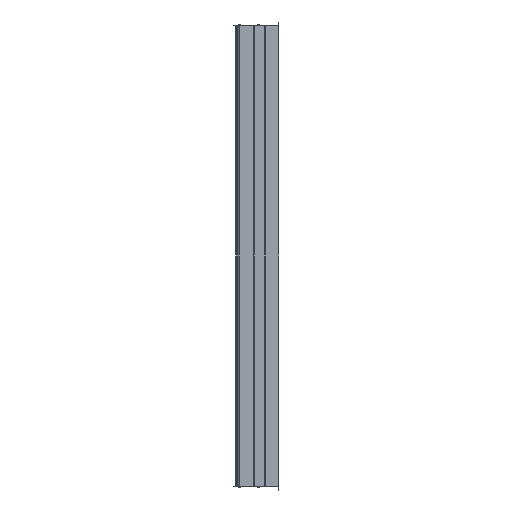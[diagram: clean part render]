
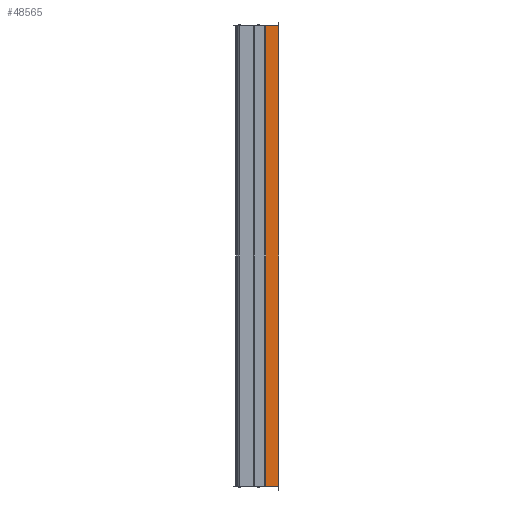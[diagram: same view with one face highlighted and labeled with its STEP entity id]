
A CAD part, left-side view. The second image highlights one B-rep face of the part: STEP entity #48565.
In plain terms, the highlighted planar face has unit normal (-1, 0, 0).
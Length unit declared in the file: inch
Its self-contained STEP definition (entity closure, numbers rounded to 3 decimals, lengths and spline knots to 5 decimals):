
#2175 = ORIENTED_EDGE ( 'NONE', *, *, #64829, .T. ) ;
#2641 = VECTOR ( 'NONE', #31469, 39.37008 ) ;
#10117 = CARTESIAN_POINT ( 'NONE',  ( -1.25984, -3.67323, -48.0625 ) ) ;
#12880 = DIRECTION ( 'NONE',  ( 0., 0., 1. ) ) ;
#14794 = CARTESIAN_POINT ( 'NONE',  ( -1.25984, -3.67323, 0. ) ) ;
#15551 = LINE ( 'NONE', #16559, #63733 ) ;
#16287 = VECTOR ( 'NONE', #62517, 39.37008 ) ;
#16559 = CARTESIAN_POINT ( 'NONE',  ( -1.25984, -3.67323, 0. ) ) ;
#16716 = AXIS2_PLACEMENT_3D ( 'NONE', #35137, #50857, #12880 ) ;
#20855 = CARTESIAN_POINT ( 'NONE',  ( -1.25984, -3.67323, -48.0625 ) ) ;
#21151 = VECTOR ( 'NONE', #25242, 39.37008 ) ;
#21817 = ORIENTED_EDGE ( 'NONE', *, *, #25784, .F. ) ;
#23038 = VERTEX_POINT ( 'NONE', #43039 ) ;
#23299 = VERTEX_POINT ( 'NONE', #61829 ) ;
#25242 = DIRECTION ( 'NONE',  ( 0., 0., 1. ) ) ;
#25784 = EDGE_CURVE ( 'NONE', #23038, #43275, #15551, .T. ) ;
#27962 = EDGE_CURVE ( 'NONE', #64656, #23038, #41658, .T. ) ;
#30962 = DIRECTION ( 'NONE',  ( 0., -1., 0. ) ) ;
#31469 = DIRECTION ( 'NONE',  ( 0., -1., 0. ) ) ;
#35137 = CARTESIAN_POINT ( 'NONE',  ( -1.25984, -3.67323, -48.0625 ) ) ;
#36932 = EDGE_LOOP ( 'NONE', ( #21817, #59230, #2175, #38497 ) ) ;
#38497 = ORIENTED_EDGE ( 'NONE', *, *, #59871, .T. ) ;
#40614 = PLANE ( 'NONE',  #16716 ) ;
#41272 = LINE ( 'NONE', #10117, #21151 ) ;
#41658 = LINE ( 'NONE', #62863, #16287 ) ;
#43039 = CARTESIAN_POINT ( 'NONE',  ( -1.25984, -2.38583, 0. ) ) ;
#43275 = VERTEX_POINT ( 'NONE', #14794 ) ;
#47192 = LINE ( 'NONE', #20855, #2641 ) ;
#48565 = ADVANCED_FACE ( 'NONE', ( #55343 ), #40614, .T. ) ;
#50857 = DIRECTION ( 'NONE',  ( -1., 0., 0. ) ) ;
#55343 = FACE_OUTER_BOUND ( 'NONE', #36932, .T. ) ;
#59230 = ORIENTED_EDGE ( 'NONE', *, *, #27962, .F. ) ;
#59871 = EDGE_CURVE ( 'NONE', #23299, #43275, #41272, .T. ) ;
#61829 = CARTESIAN_POINT ( 'NONE',  ( -1.25984, -3.67323, -48.0625 ) ) ;
#62517 = DIRECTION ( 'NONE',  ( 0., 0., 1. ) ) ;
#62863 = CARTESIAN_POINT ( 'NONE',  ( -1.25984, -2.38583, -48.0625 ) ) ;
#63366 = CARTESIAN_POINT ( 'NONE',  ( -1.25984, -2.38583, -48.0625 ) ) ;
#63733 = VECTOR ( 'NONE', #30962, 39.37008 ) ;
#64656 = VERTEX_POINT ( 'NONE', #63366 ) ;
#64829 = EDGE_CURVE ( 'NONE', #64656, #23299, #47192, .T. ) ;
